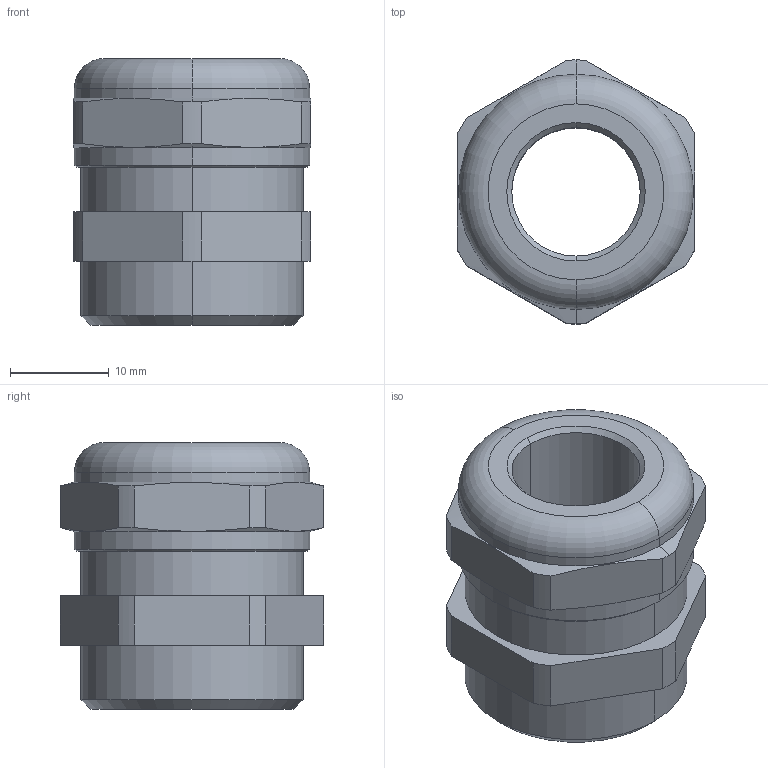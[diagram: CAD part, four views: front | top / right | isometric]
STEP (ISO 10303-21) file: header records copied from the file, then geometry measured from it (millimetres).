
FILE_DESCRIPTION (( 'STEP AP203' ), '1' );
FILE_NAME ('18160913.STEP', '2006-10-13T09:42:25', ( ' ' ), ( '' ), 'SwSTEP 2.0', 'SolidWorks 2005278', '' );
FILE_SCHEMA (( 'CONFIG_CONTROL_DESIGN' ));
Length unit declared in the file: millimetre
Products named in the file (1): 18160913
Bounding box: 24 x 26.7 x 27 mm (x, y, z)
Volume: 8227.5 mm3; surface area: 3880.4 mm2
Topology: 1 solids, 1 shells, 90 faces, 232 edges, 150 vertices
Faces by surface type: plane 54, cylinder 24, cone 10, torus 2
Entity records: 2841 total; most frequent: CARTESIAN_POINT 533, ORIENTED_EDGE 464, DIRECTION 462, EDGE_CURVE 232, VECTOR 160, LINE 160, AXIS2_PLACEMENT_3D 151, VERTEX_POINT 150
